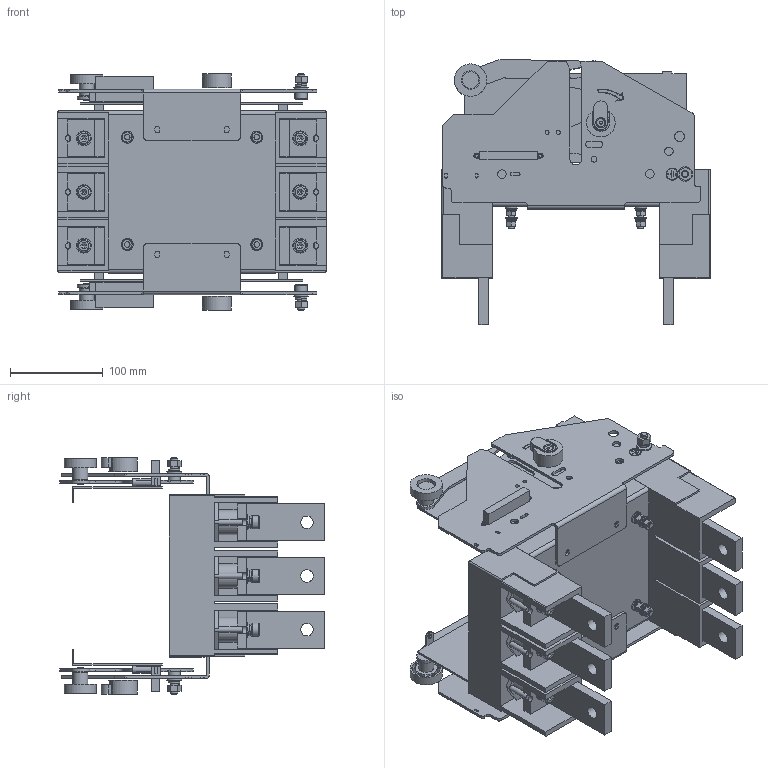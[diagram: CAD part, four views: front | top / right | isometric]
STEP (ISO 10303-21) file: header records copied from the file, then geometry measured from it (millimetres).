
FILE_DESCRIPTION(/* description */ (''),/* implementation_level */ '2;1');
FILE_NAME(/* name */ 'M1-630抽屉式.stp',/* time_stamp */ '2025-02-21T14:22:28+08:00',/* author */ (''),/* organization */ (''),/* preprocessor_version */ 'ST-DEVELOPER v16',/* originating_system */ 'SIEMENS PLM Software NX 10.0',/* authorisation */ '');
FILE_SCHEMA (('AUTOMOTIVE_DESIGN { 1 0 10303 214 3 1 1 1 }'));
Products named in the file (1): midi3CBC86F80alk
Bounding box: 290 x 286.38 x 256 mm (x, y, z)
Volume: 2253648 mm3; surface area: 828598.8 mm2
Topology: 77 solids, 95 shells, 2094 faces, 5315 edges, 3525 vertices
Faces by surface type: plane 1266, cylinder 526, bspline 148, extrusion 66, torus 42, cone 30, sphere 16
Full cylindrical faces by diameter (mm): 2 x16, 3 x2, 3.2 x16, 3.5 x4, 4.3 x8, 4.4 x16, 5 x12, 5.2 x12, 5.9 x2, 6 x22, 6.3 x2, 6.4 x2, 6.5 x14, 6.8 x2, 8 x10, 8.1 x2, 8.3 x2, 8.5 x8, 9 x10, 9.2 x4, 10 x2, 10.3 x2, 10.7 x2, 11 x4, 12 x4, 13 x10, 13.2 x2, 13.5 x6, 14.2 x6, 16 x10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
Entity records: 69894 total; most frequent: CARTESIAN_POINT 20529, ORIENTED_EDGE 9796, DIRECTION 9540, EDGE_CURVE 4898, VERTEX_POINT 3402, VECTOR 3206, AXIS2_PLACEMENT_3D 3167, LINE 3140
